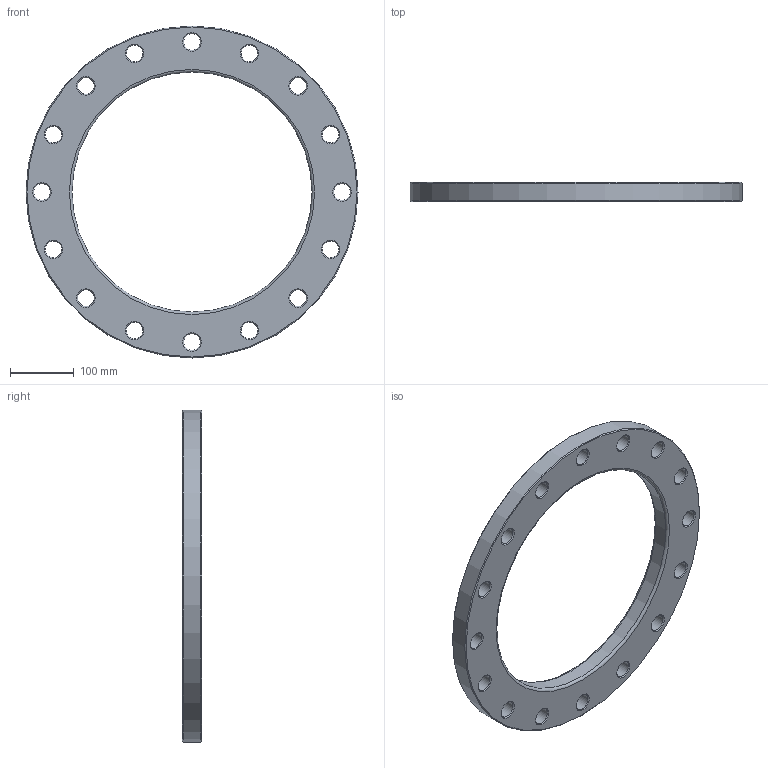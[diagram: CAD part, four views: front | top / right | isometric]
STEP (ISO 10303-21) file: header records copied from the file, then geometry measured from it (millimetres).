
FILE_DESCRIPTION(/* description */ ('Unknown'),/* implementation_level */ '2;1');
FILE_NAME(/* name */ 'FZ355C',/* time_stamp */ '2021-03-15T12:18:15+01:00',/* author */ ('Unknown'),/* organization */ ('Unknown'),/* preprocessor_version */ 'ST-DEVELOPER v16.7',/* originating_system */ 'Solid Edge',/* authorisation */ 'Unknown');
FILE_SCHEMA (('AUTOMOTIVE_DESIGN {1 0 10303 214 3 1 1}'));
Length unit declared in the file: millimetre
Products named in the file (1): FZ355C
Bounding box: 520 x 30 x 520 mm (x, y, z)
Volume: 2770337.7 mm3; surface area: 300212.3 mm2
Topology: 1 solids, 1 shells, 56 faces, 174 edges, 120 vertices
Faces by surface type: cone 34, cylinder 18, plane 2, torus 2
Full cylindrical faces by diameter (mm): 26 x16, 376 x1, 520 x1
Entity records: 1382 total; most frequent: DIRECTION 258, CARTESIAN_POINT 201, ORIENTED_EDGE 144, EDGE_LOOP 144, FACE_BOUND 144, AXIS2_PLACEMENT_3D 129, EDGE_CURVE 72, VERTEX_POINT 72
